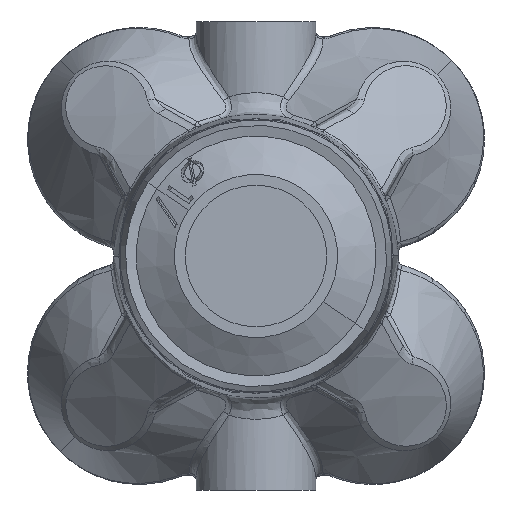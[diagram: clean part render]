
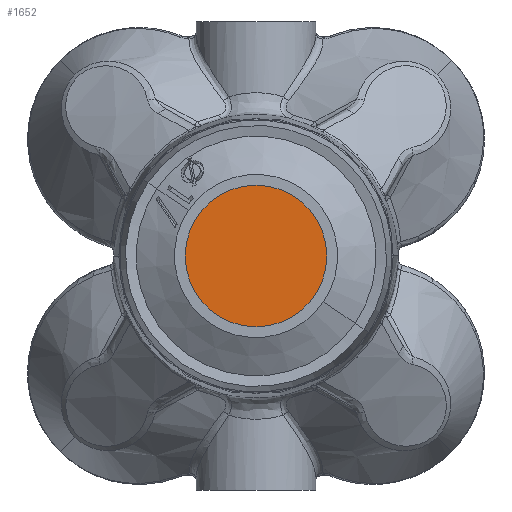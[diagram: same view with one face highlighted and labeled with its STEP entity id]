
A CAD part, front view. The second image highlights one B-rep face of the part: STEP entity #1652.
In plain terms, the highlighted planar face has unit normal (0, -1, 0).
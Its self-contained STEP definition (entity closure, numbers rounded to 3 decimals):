
#134 = DIRECTION ( 'NONE',  ( 0., -1., 0. ) ) ;
#345 = ORIENTED_EDGE ( 'NONE', *, *, #26255, .T. ) ;
#1652 = ADVANCED_FACE ( 'NONE', ( #27986 ), #43917, .T. ) ;
#2427 = ORIENTED_EDGE ( 'NONE', *, *, #32164, .T. ) ;
#7040 = AXIS2_PLACEMENT_3D ( 'NONE', #20662, #50808, #24978 ) ;
#10980 = CARTESIAN_POINT ( 'NONE',  ( 3.25, 11.5, 0. ) ) ;
#12897 = AXIS2_PLACEMENT_3D ( 'NONE', #25837, #134, #30159 ) ;
#18186 = DIRECTION ( 'NONE',  ( 0., -1., 0. ) ) ;
#19163 = CIRCLE ( 'NONE', #12897, 3.25 ) ;
#20662 = CARTESIAN_POINT ( 'NONE',  ( 0., 11.5, 0. ) ) ;
#24978 = DIRECTION ( 'NONE',  ( 1., 0., 0. ) ) ;
#25837 = CARTESIAN_POINT ( 'NONE',  ( 0., 11.5, 0. ) ) ;
#26255 = EDGE_CURVE ( 'NONE', #47008, #27153, #42369, .T. ) ;
#27153 = VERTEX_POINT ( 'NONE', #52924 ) ;
#27986 = FACE_OUTER_BOUND ( 'NONE', #38117, .T. ) ;
#30159 = DIRECTION ( 'NONE',  ( 1., 0., 0. ) ) ;
#31905 = AXIS2_PLACEMENT_3D ( 'NONE', #47723, #18186, #48276 ) ;
#32164 = EDGE_CURVE ( 'NONE', #27153, #47008, #19163, .T. ) ;
#38117 = EDGE_LOOP ( 'NONE', ( #345, #2427 ) ) ;
#42369 = CIRCLE ( 'NONE', #7040, 3.25 ) ;
#43917 = PLANE ( 'NONE',  #31905 ) ;
#47008 = VERTEX_POINT ( 'NONE', #10980 ) ;
#47723 = CARTESIAN_POINT ( 'NONE',  ( 0., 11.5, 0. ) ) ;
#48276 = DIRECTION ( 'NONE',  ( 1., 0., 0. ) ) ;
#50808 = DIRECTION ( 'NONE',  ( 0., -1., 0. ) ) ;
#52924 = CARTESIAN_POINT ( 'NONE',  ( -3.25, 11.5, 0. ) ) ;
